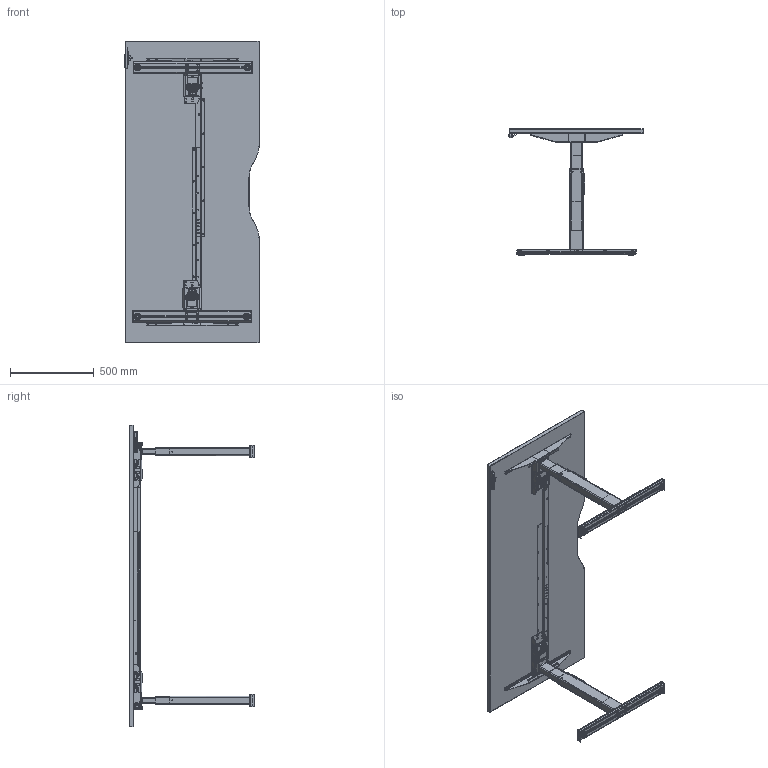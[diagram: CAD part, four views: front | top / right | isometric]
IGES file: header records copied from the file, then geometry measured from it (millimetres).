
Global section: file name: Metalon HAD (1800x800); native system: unknown; preprocessor: unknown; author: unknown; organization: unknown; date: 20240814.102638; units: millimetre
Bounding box: 802.49 x 750.5 x 1800 mm (x, y, z)
Volume: 47079431.8 mm3; surface area: 5147036.3 mm2
Topology: 30 solids, 47 shells, 6677 faces, 17279 edges, 10883 vertices
Faces by surface type: bspline 6677
